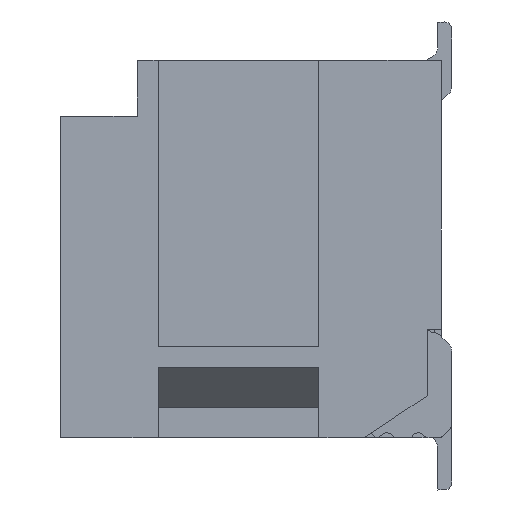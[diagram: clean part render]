
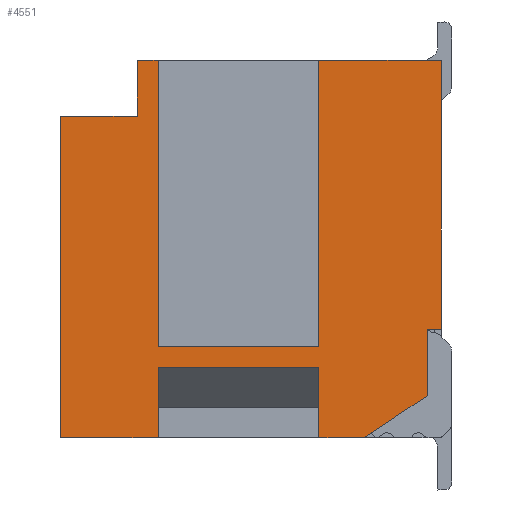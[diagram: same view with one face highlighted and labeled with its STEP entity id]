
A CAD part, left-side view. The second image highlights one B-rep face of the part: STEP entity #4551.
In plain terms, the highlighted planar face has unit normal (-1, 0, 0).
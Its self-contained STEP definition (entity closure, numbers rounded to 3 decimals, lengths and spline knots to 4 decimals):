
#409=PLANE('',#116925);
#4551=ADVANCED_FACE('',(#11791),#409,.F.);
#11791=FACE_OUTER_BOUND('',#17341,.T.);
#17341=EDGE_LOOP('',(#51942,#51943,#51944,#51945,#51946,#51947,#51948,#51949,
#51950,#51951,#51952,#51953,#51954,#51955,#51956,#51957,#51958));
#23179=LINE('',#158007,#37069);
#23184=LINE('',#158018,#37074);
#23188=LINE('',#158027,#37078);
#23198=LINE('',#158047,#37088);
#23204=LINE('',#158059,#37094);
#23292=LINE('',#158241,#37182);
#23339=LINE('',#158331,#37229);
#23345=LINE('',#158343,#37235);
#23346=LINE('',#158345,#37236);
#23397=LINE('',#158447,#37287);
#23399=LINE('',#158451,#37289);
#23400=LINE('',#158452,#37290);
#23401=LINE('',#158454,#37291);
#23402=LINE('',#158455,#37292);
#23403=LINE('',#158456,#37293);
#23404=LINE('',#158458,#37294);
#23405=LINE('',#158460,#37295);
#37069=VECTOR('',#126375,1.);
#37074=VECTOR('',#126382,1.);
#37078=VECTOR('',#126388,1.);
#37088=VECTOR('',#126408,1.);
#37094=VECTOR('',#126418,1.);
#37182=VECTOR('',#126564,1.);
#37229=VECTOR('',#126639,1.);
#37235=VECTOR('',#126649,1.);
#37236=VECTOR('',#126652,1.);
#37287=VECTOR('',#126745,1.);
#37289=VECTOR('',#126749,1.);
#37290=VECTOR('',#126750,1.);
#37291=VECTOR('',#126751,1.);
#37292=VECTOR('',#126752,1.);
#37293=VECTOR('',#126753,1.);
#37294=VECTOR('',#126754,1.);
#37295=VECTOR('',#126755,1.);
#51942=ORIENTED_EDGE('',*,*,#96698,.T.);
#51943=ORIENTED_EDGE('',*,*,#96855,.F.);
#51944=ORIENTED_EDGE('',*,*,#96909,.T.);
#51945=ORIENTED_EDGE('',*,*,#96856,.T.);
#51946=ORIENTED_EDGE('',*,*,#96694,.T.);
#51947=ORIENTED_EDGE('',*,*,#96907,.T.);
#51948=ORIENTED_EDGE('',*,*,#96910,.T.);
#51949=ORIENTED_EDGE('',*,*,#96911,.F.);
#51950=ORIENTED_EDGE('',*,*,#96708,.F.);
#51951=ORIENTED_EDGE('',*,*,#96689,.T.);
#51952=ORIENTED_EDGE('',*,*,#96714,.T.);
#51953=ORIENTED_EDGE('',*,*,#96912,.F.);
#51954=ORIENTED_EDGE('',*,*,#96802,.F.);
#51955=ORIENTED_EDGE('',*,*,#96913,.F.);
#51956=ORIENTED_EDGE('',*,*,#96914,.F.);
#51957=ORIENTED_EDGE('',*,*,#96915,.T.);
#51958=ORIENTED_EDGE('',*,*,#96849,.T.);
#85224=VERTEX_POINT('',#158008);
#85225=VERTEX_POINT('',#158009);
#85228=VERTEX_POINT('',#158017);
#85229=VERTEX_POINT('',#158019);
#85232=VERTEX_POINT('',#158026);
#85233=VERTEX_POINT('',#158028);
#85238=VERTEX_POINT('',#158048);
#85241=VERTEX_POINT('',#158058);
#85306=VERTEX_POINT('',#158240);
#85307=VERTEX_POINT('',#158242);
#85336=VERTEX_POINT('',#158332);
#85339=VERTEX_POINT('',#158342);
#85340=VERTEX_POINT('',#158346);
#85370=VERTEX_POINT('',#158448);
#85371=VERTEX_POINT('',#158453);
#85372=VERTEX_POINT('',#158457);
#85373=VERTEX_POINT('',#158459);
#96689=EDGE_CURVE('',#85224,#85225,#23179,.T.);
#96694=EDGE_CURVE('',#85229,#85228,#23184,.T.);
#96698=EDGE_CURVE('',#85233,#85232,#23188,.T.);
#96708=EDGE_CURVE('',#85224,#85238,#23198,.T.);
#96714=EDGE_CURVE('',#85225,#85241,#23204,.T.);
#96802=EDGE_CURVE('',#85306,#85307,#23292,.T.);
#96849=EDGE_CURVE('',#85336,#85233,#23339,.T.);
#96855=EDGE_CURVE('',#85339,#85232,#23345,.T.);
#96856=EDGE_CURVE('',#85340,#85229,#23346,.T.);
#96907=EDGE_CURVE('',#85228,#85370,#23397,.T.);
#96909=EDGE_CURVE('',#85339,#85340,#23399,.T.);
#96910=EDGE_CURVE('',#85370,#85371,#23400,.T.);
#96911=EDGE_CURVE('',#85238,#85371,#23401,.T.);
#96912=EDGE_CURVE('',#85307,#85241,#23402,.T.);
#96913=EDGE_CURVE('',#85372,#85306,#23403,.T.);
#96914=EDGE_CURVE('',#85373,#85372,#23404,.T.);
#96915=EDGE_CURVE('',#85373,#85336,#23405,.T.);
#116925=AXIS2_PLACEMENT_3D('',#158461,#126756,#126757);
#126375=DIRECTION('',(0.,1.,0.));
#126382=DIRECTION('',(0.,0.,1.));
#126388=DIRECTION('',(0.,-1.,0.));
#126408=DIRECTION('',(0.,0.,1.));
#126418=DIRECTION('',(0.,0.,1.));
#126564=DIRECTION('',(0.,0.,1.));
#126639=DIRECTION('',(0.,0.,1.));
#126649=DIRECTION('',(0.,0.,1.));
#126652=DIRECTION('',(0.,-0.831,0.557));
#126745=DIRECTION('',(0.,-1.,0.));
#126749=DIRECTION('',(0.,-1.,0.));
#126750=DIRECTION('',(0.,0.,1.));
#126751=DIRECTION('',(0.,-1.,0.));
#126752=DIRECTION('',(0.,-1.,0.));
#126753=DIRECTION('',(0.,-1.,0.));
#126754=DIRECTION('',(0.,0.,1.));
#126755=DIRECTION('',(0.,-1.,0.));
#126756=DIRECTION('',(1.,0.,0.));
#126757=DIRECTION('',(0.,0.,-1.));
#158007=CARTESIAN_POINT('',(16.2201,5.35,1.3));
#158008=CARTESIAN_POINT('',(16.2201,5.35,1.3));
#158009=CARTESIAN_POINT('',(16.2201,7.65,1.3));
#158017=CARTESIAN_POINT('',(16.2201,3.8,1.55));
#158018=CARTESIAN_POINT('',(16.2201,3.8,0.6));
#158019=CARTESIAN_POINT('',(16.2201,3.8,0.6));
#158026=CARTESIAN_POINT('',(16.2201,5.35,1.));
#158027=CARTESIAN_POINT('',(16.2201,4.01,1.));
#158028=CARTESIAN_POINT('',(16.2201,7.65,1.));
#158047=CARTESIAN_POINT('',(16.2201,5.35,0.5));
#158048=CARTESIAN_POINT('',(16.2201,5.35,5.4));
#158058=CARTESIAN_POINT('',(16.2201,7.65,5.4));
#158059=CARTESIAN_POINT('',(16.2201,7.65,4.05));
#158240=CARTESIAN_POINT('',(16.2201,7.95,4.6));
#158241=CARTESIAN_POINT('',(16.2201,7.95,4.05));
#158242=CARTESIAN_POINT('',(16.2201,7.95,5.4));
#158331=CARTESIAN_POINT('',(16.2201,7.65,4.05));
#158332=CARTESIAN_POINT('',(16.2201,7.65,0.));
#158342=CARTESIAN_POINT('',(16.2201,5.35,0.));
#158343=CARTESIAN_POINT('',(16.2201,5.35,0.5));
#158345=CARTESIAN_POINT('',(16.2201,4.6954,0.));
#158346=CARTESIAN_POINT('',(16.2201,4.6954,0.));
#158447=CARTESIAN_POINT('',(16.2201,3.8,1.55));
#158448=CARTESIAN_POINT('',(16.2201,3.6,1.55));
#158451=CARTESIAN_POINT('',(16.2201,6.5,0.));
#158452=CARTESIAN_POINT('',(16.2201,3.6,0.));
#158453=CARTESIAN_POINT('',(16.2201,3.6,5.4));
#158454=CARTESIAN_POINT('',(16.2201,4.01,5.4));
#158455=CARTESIAN_POINT('',(16.2201,4.01,5.4));
#158456=CARTESIAN_POINT('',(16.2201,4.01,4.6));
#158457=CARTESIAN_POINT('',(16.2201,9.05,4.6));
#158458=CARTESIAN_POINT('',(16.2201,9.05,4.05));
#158459=CARTESIAN_POINT('',(16.2201,9.05,0.));
#158460=CARTESIAN_POINT('',(16.2201,6.5,0.));
#158461=CARTESIAN_POINT('',(16.2201,4.01,4.05));
